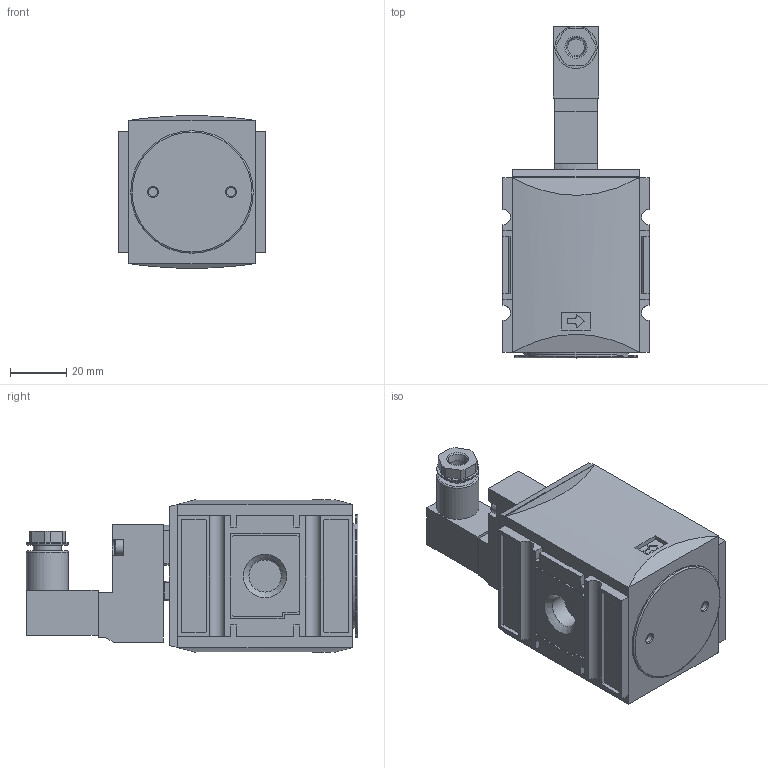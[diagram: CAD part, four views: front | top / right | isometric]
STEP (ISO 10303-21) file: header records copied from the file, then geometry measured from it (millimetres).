
FILE_DESCRIPTION( ( 'STEP AP214' ), ' ' );
FILE_NAME( 'p:/temp/worker_4598/5544_5944/app_53_02017011215343994441631192d056f_000000_00_00_000000/format_1/FU 927.stp', '2017-01-12T14:34:42', ( '' ), ( '' ), ' ', 'PARTsolutions', ' ' );
FILE_SCHEMA( ( 'AUTOMOTIVE_DESIGN { 1 0 10303 214 1 1 1 1 }' ) );
Length unit declared in the file: millimetre
Products named in the file (3): FU 927; _FU 927-1; _FU 927-5
Assembly tree (2 placements, depth 2):
  FU 927
    _FU 927-1
    _FU 927-5
Bounding box: 52 x 117.89 x 54.19 mm (x, y, z)
Volume: 190565.1 mm3; surface area: 31775.4 mm2
Topology: 2 solids, 2 shells, 361 faces, 884 edges, 572 vertices
Faces by surface type: plane 250, cylinder 84, cone 16, torus 10, sphere 1
Full cylindrical faces by diameter (mm): 2 x5, 2.459 x2, 3 x2, 3.2 x2, 3.242 x2, 4.9 x1, 5.5 x3, 6 x1, 10 x1, 11.445 x2, 15 x2, 36 x1, 36.2 x1, 37.2 x1, 43.5 x1
Entity records: 13155 total; most frequent: DIRECTION 1769, CARTESIAN_POINT 1763, ORIENTED_EDGE 1650, EDGE_CURVE 825, LINE 605, VECTOR 605, AXIS2_PLACEMENT_3D 582, VERTEX_POINT 562
